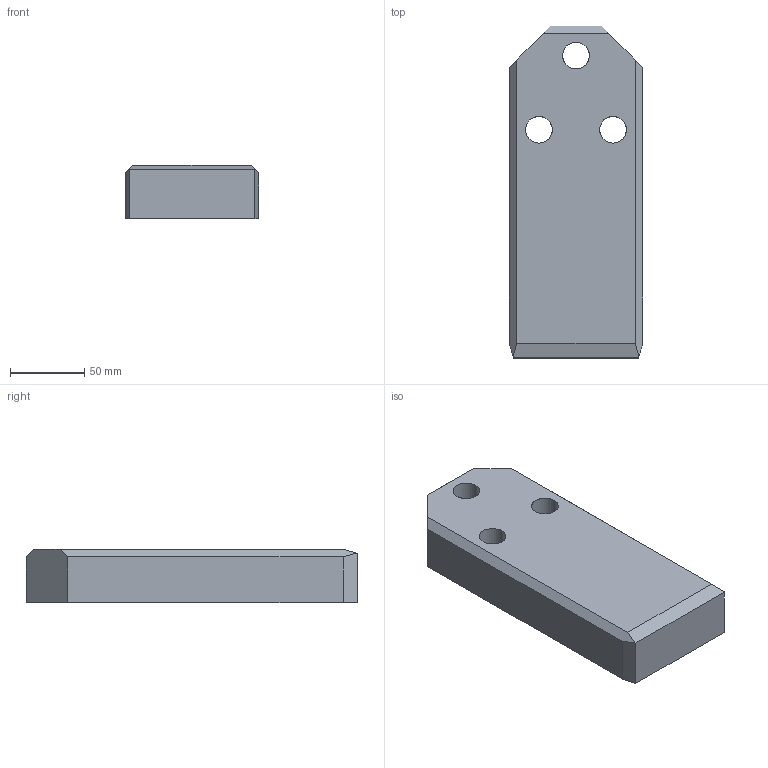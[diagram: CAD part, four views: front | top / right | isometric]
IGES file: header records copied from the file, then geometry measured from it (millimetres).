
Start section: START RECORD GO HERE.
Global section: file name: A927-90X224X36.igs; native system: DASSAULT SYSTEMES CATIA V5 R20 - www.3ds.com; preprocessor: CATIA Version 5 Release 20 ; author: Utente; organization: NB04-ASUS; date: 20200408.202528; units: millimetre
Bounding box: 90 x 224 x 36 mm (x, y, z)
Surface area: 64356.8 mm2 (no closed solid volume)
Topology: 0 solids, 0 shells, 35 faces, 168 edges, 168 vertices
Faces by surface type: revolution 18, extrusion 17
